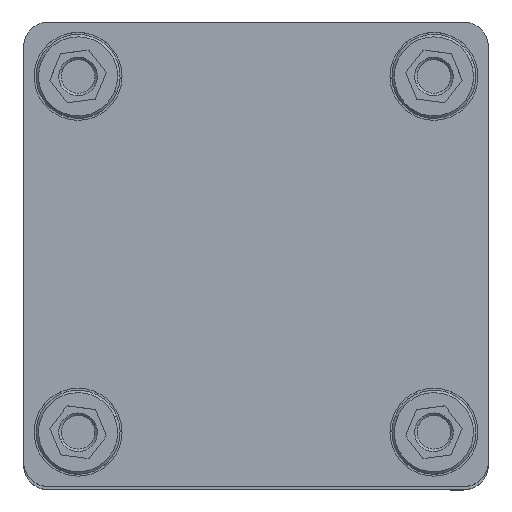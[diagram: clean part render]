
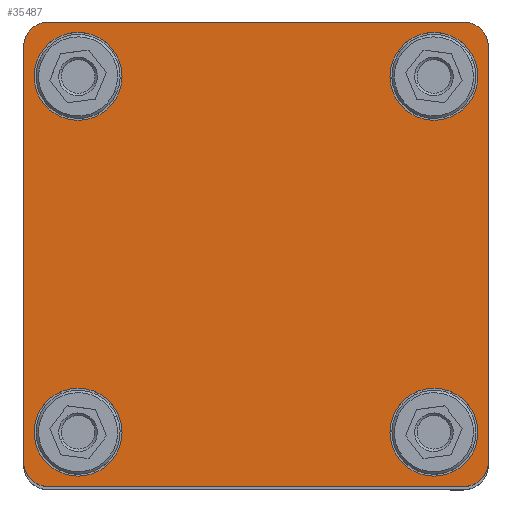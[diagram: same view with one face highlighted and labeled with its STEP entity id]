
A CAD part, top view. The second image highlights one B-rep face of the part: STEP entity #35487.
In plain terms, the highlighted planar face has unit normal (0, 0, 1) as drawn and (1, 0, 0) by its records, which use the part's own axes.
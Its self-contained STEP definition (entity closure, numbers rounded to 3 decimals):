
#7 = ORIENTED_EDGE ( 'NONE', *, *, #53672, .F. ) ;
#756 = DIRECTION ( 'NONE',  ( 1., 0., 0. ) ) ;
#843 = CIRCLE ( 'NONE', #23699, 5. ) ;
#910 = CARTESIAN_POINT ( 'NONE',  ( 0., 47., -47. ) ) ;
#1063 = VECTOR ( 'NONE', #23560, 1000. ) ;
#1460 = CARTESIAN_POINT ( 'NONE',  ( 0., -42., -42. ) ) ;
#1903 = DIRECTION ( 'NONE',  ( 0., 0., 1. ) ) ;
#2743 = VERTEX_POINT ( 'NONE', #8419 ) ;
#2876 = FACE_BOUND ( 'NONE', #14866, .T. ) ;
#2986 = DIRECTION ( 'NONE',  ( 1., 0., 0. ) ) ;
#3171 = EDGE_CURVE ( 'NONE', #50883, #8267, #843, .T. ) ;
#3392 = EDGE_CURVE ( 'NONE', #23514, #32773, #46537, .T. ) ;
#3691 = CARTESIAN_POINT ( 'NONE',  ( 0., -36., 27.1 ) ) ;
#4442 = EDGE_CURVE ( 'NONE', #22175, #18625, #40807, .T. ) ;
#4878 = ORIENTED_EDGE ( 'NONE', *, *, #46613, .F. ) ;
#5325 = DIRECTION ( 'NONE',  ( 1., 0., 0. ) ) ;
#5492 = ORIENTED_EDGE ( 'NONE', *, *, #4442, .F. ) ;
#5665 = VECTOR ( 'NONE', #16947, 1000. ) ;
#5792 = VECTOR ( 'NONE', #1903, 1000. ) ;
#5926 = EDGE_CURVE ( 'NONE', #55581, #8993, #35116, .T. ) ;
#7353 = EDGE_CURVE ( 'NONE', #2743, #56729, #38896, .T. ) ;
#7557 = DIRECTION ( 'NONE',  ( 0., 0., -1. ) ) ;
#8267 = VERTEX_POINT ( 'NONE', #57644 ) ;
#8276 = CIRCLE ( 'NONE', #46287, 8.9 ) ;
#8285 = AXIS2_PLACEMENT_3D ( 'NONE', #1460, #56899, #42588 ) ;
#8419 = CARTESIAN_POINT ( 'NONE',  ( 0., 36., -27.1 ) ) ;
#8608 = DIRECTION ( 'NONE',  ( 0., 0., -1. ) ) ;
#8993 = VERTEX_POINT ( 'NONE', #3691 ) ;
#9386 = CARTESIAN_POINT ( 'NONE',  ( 0., 47., -42. ) ) ;
#9394 = AXIS2_PLACEMENT_3D ( 'NONE', #48422, #57987, #43079 ) ;
#10185 = CIRCLE ( 'NONE', #43544, 8.9 ) ;
#10552 = ORIENTED_EDGE ( 'NONE', *, *, #3171, .T. ) ;
#11640 = DIRECTION ( 'NONE',  ( 0., 0., -1. ) ) ;
#11701 = EDGE_CURVE ( 'NONE', #32039, #47033, #49910, .T. ) ;
#11834 = ORIENTED_EDGE ( 'NONE', *, *, #51540, .T. ) ;
#11850 = CARTESIAN_POINT ( 'NONE',  ( 0., 36., 44.9 ) ) ;
#12090 = CARTESIAN_POINT ( 'NONE',  ( 0., -42., -47. ) ) ;
#13905 = DIRECTION ( 'NONE',  ( 1., 0., 0. ) ) ;
#13918 = CARTESIAN_POINT ( 'NONE',  ( 0., 36., 36. ) ) ;
#14866 = EDGE_LOOP ( 'NONE', ( #19056, #7 ) ) ;
#14943 = CIRCLE ( 'NONE', #54949, 8.9 ) ;
#15293 = VERTEX_POINT ( 'NONE', #31845 ) ;
#15312 = AXIS2_PLACEMENT_3D ( 'NONE', #48964, #5325, #44803 ) ;
#16947 = DIRECTION ( 'NONE',  ( 0., 1., 0. ) ) ;
#17261 = LINE ( 'NONE', #43488, #5665 ) ;
#18625 = VERTEX_POINT ( 'NONE', #50953 ) ;
#18846 = EDGE_CURVE ( 'NONE', #50883, #47033, #17261, .T. ) ;
#19010 = DIRECTION ( 'NONE',  ( 1., 0., 0. ) ) ;
#19056 = ORIENTED_EDGE ( 'NONE', *, *, #3392, .F. ) ;
#19460 = VERTEX_POINT ( 'NONE', #47876 ) ;
#19605 = EDGE_LOOP ( 'NONE', ( #51120, #46391 ) ) ;
#20032 = EDGE_LOOP ( 'NONE', ( #49224, #10552, #41966, #11834, #58859, #46540, #4878, #58326 ) ) ;
#21036 = DIRECTION ( 'NONE',  ( 0., 0., -1. ) ) ;
#21765 = CARTESIAN_POINT ( 'NONE',  ( 0., -36., -44.9 ) ) ;
#22175 = VERTEX_POINT ( 'NONE', #21765 ) ;
#23076 = DIRECTION ( 'NONE',  ( 1., 0., 0. ) ) ;
#23432 = EDGE_CURVE ( 'NONE', #8993, #55581, #14943, .T. ) ;
#23514 = VERTEX_POINT ( 'NONE', #51367 ) ;
#23560 = DIRECTION ( 'NONE',  ( 0., 0., -1. ) ) ;
#23699 = AXIS2_PLACEMENT_3D ( 'NONE', #51571, #28923, #11640 ) ;
#23750 = CARTESIAN_POINT ( 'NONE',  ( 0., 36., -36. ) ) ;
#24545 = CARTESIAN_POINT ( 'NONE',  ( 0., -47., -47. ) ) ;
#24640 = AXIS2_PLACEMENT_3D ( 'NONE', #47784, #56739, #7557 ) ;
#24851 = CARTESIAN_POINT ( 'NONE',  ( 0., -36., 44.9 ) ) ;
#25201 = CARTESIAN_POINT ( 'NONE',  ( 0., 47., 42. ) ) ;
#25266 = EDGE_CURVE ( 'NONE', #15293, #39659, #38150, .T. ) ;
#25541 = FACE_BOUND ( 'NONE', #40761, .T. ) ;
#26373 = CIRCLE ( 'NONE', #8285, 5. ) ;
#26599 = EDGE_CURVE ( 'NONE', #18625, #22175, #47340, .T. ) ;
#27171 = CARTESIAN_POINT ( 'NONE',  ( 0., 42., 47. ) ) ;
#27319 = VERTEX_POINT ( 'NONE', #9386 ) ;
#27553 = CARTESIAN_POINT ( 'NONE',  ( 0., -36., 36. ) ) ;
#27918 = DIRECTION ( 'NONE',  ( 0., 0., -1. ) ) ;
#28003 = AXIS2_PLACEMENT_3D ( 'NONE', #51699, #756, #51418 ) ;
#28671 = EDGE_CURVE ( 'NONE', #19460, #8267, #33460, .T. ) ;
#28923 = DIRECTION ( 'NONE',  ( 1., 0., 0. ) ) ;
#28959 = EDGE_CURVE ( 'NONE', #15293, #27319, #36269, .T. ) ;
#29582 = ORIENTED_EDGE ( 'NONE', *, *, #23432, .F. ) ;
#29704 = CARTESIAN_POINT ( 'NONE',  ( 0., 0., 0. ) ) ;
#29989 = FACE_BOUND ( 'NONE', #19605, .T. ) ;
#31845 = CARTESIAN_POINT ( 'NONE',  ( 0., 42., -47. ) ) ;
#32039 = VERTEX_POINT ( 'NONE', #25201 ) ;
#32196 = VECTOR ( 'NONE', #56024, 1000. ) ;
#32583 = ORIENTED_EDGE ( 'NONE', *, *, #26599, .F. ) ;
#32773 = VERTEX_POINT ( 'NONE', #11850 ) ;
#33178 = CARTESIAN_POINT ( 'NONE',  ( 0., -36., 36. ) ) ;
#33460 = LINE ( 'NONE', #24545, #5792 ) ;
#35116 = CIRCLE ( 'NONE', #54154, 8.9 ) ;
#35483 = CARTESIAN_POINT ( 'NONE',  ( 0., 36., -44.9 ) ) ;
#35487 = ADVANCED_FACE ( 'NONE', ( #25541, #52639, #29989, #2876, #48466 ), #44009, .T. ) ;
#36269 = CIRCLE ( 'NONE', #15312, 5. ) ;
#36492 = CARTESIAN_POINT ( 'NONE',  ( 0., -42., 47. ) ) ;
#38150 = LINE ( 'NONE', #52129, #32196 ) ;
#38896 = CIRCLE ( 'NONE', #24640, 8.9 ) ;
#38920 = CARTESIAN_POINT ( 'NONE',  ( 0., -36., -36. ) ) ;
#39362 = DIRECTION ( 'NONE',  ( 0., 0., -1. ) ) ;
#39659 = VERTEX_POINT ( 'NONE', #12090 ) ;
#40761 = EDGE_LOOP ( 'NONE', ( #5492, #32583 ) ) ;
#40807 = CIRCLE ( 'NONE', #50267, 8.9 ) ;
#41253 = DIRECTION ( 'NONE',  ( 0., 0., -1. ) ) ;
#41966 = ORIENTED_EDGE ( 'NONE', *, *, #28671, .F. ) ;
#42588 = DIRECTION ( 'NONE',  ( 0., 0., -1. ) ) ;
#43079 = DIRECTION ( 'NONE',  ( 0., 0., -1. ) ) ;
#43488 = CARTESIAN_POINT ( 'NONE',  ( 0., -47., 47. ) ) ;
#43544 = AXIS2_PLACEMENT_3D ( 'NONE', #23750, #13905, #27918 ) ;
#43581 = AXIS2_PLACEMENT_3D ( 'NONE', #29704, #48764, #56829 ) ;
#43824 = CARTESIAN_POINT ( 'NONE',  ( 0., 36., 36. ) ) ;
#44009 = PLANE ( 'NONE',  #43581 ) ;
#44803 = DIRECTION ( 'NONE',  ( 0., 0., -1. ) ) ;
#46287 = AXIS2_PLACEMENT_3D ( 'NONE', #13918, #19010, #8608 ) ;
#46391 = ORIENTED_EDGE ( 'NONE', *, *, #7353, .F. ) ;
#46424 = ORIENTED_EDGE ( 'NONE', *, *, #5926, .F. ) ;
#46537 = CIRCLE ( 'NONE', #54160, 8.9 ) ;
#46540 = ORIENTED_EDGE ( 'NONE', *, *, #28959, .T. ) ;
#46613 = EDGE_CURVE ( 'NONE', #32039, #27319, #50970, .T. ) ;
#47033 = VERTEX_POINT ( 'NONE', #27171 ) ;
#47340 = CIRCLE ( 'NONE', #9394, 8.9 ) ;
#47784 = CARTESIAN_POINT ( 'NONE',  ( 0., 36., -36. ) ) ;
#47876 = CARTESIAN_POINT ( 'NONE',  ( 0., -47., -42. ) ) ;
#48422 = CARTESIAN_POINT ( 'NONE',  ( 0., -36., -36. ) ) ;
#48466 = FACE_OUTER_BOUND ( 'NONE', #20032, .T. ) ;
#48709 = EDGE_LOOP ( 'NONE', ( #29582, #46424 ) ) ;
#48764 = DIRECTION ( 'NONE',  ( 1., 0., 0. ) ) ;
#48964 = CARTESIAN_POINT ( 'NONE',  ( 0., 42., -42. ) ) ;
#49224 = ORIENTED_EDGE ( 'NONE', *, *, #18846, .F. ) ;
#49910 = CIRCLE ( 'NONE', #28003, 5. ) ;
#50267 = AXIS2_PLACEMENT_3D ( 'NONE', #38920, #52897, #21036 ) ;
#50883 = VERTEX_POINT ( 'NONE', #36492 ) ;
#50953 = CARTESIAN_POINT ( 'NONE',  ( 0., -36., -27.1 ) ) ;
#50970 = LINE ( 'NONE', #910, #1063 ) ;
#51075 = DIRECTION ( 'NONE',  ( 1., 0., 0. ) ) ;
#51120 = ORIENTED_EDGE ( 'NONE', *, *, #56065, .F. ) ;
#51367 = CARTESIAN_POINT ( 'NONE',  ( 0., 36., 27.1 ) ) ;
#51418 = DIRECTION ( 'NONE',  ( 0., 0., -1. ) ) ;
#51540 = EDGE_CURVE ( 'NONE', #19460, #39659, #26373, .T. ) ;
#51571 = CARTESIAN_POINT ( 'NONE',  ( 0., -42., 42. ) ) ;
#51699 = CARTESIAN_POINT ( 'NONE',  ( 0., 42., 42. ) ) ;
#52129 = CARTESIAN_POINT ( 'NONE',  ( 0., -47., -47. ) ) ;
#52639 = FACE_BOUND ( 'NONE', #48709, .T. ) ;
#52897 = DIRECTION ( 'NONE',  ( 1., 0., 0. ) ) ;
#53672 = EDGE_CURVE ( 'NONE', #32773, #23514, #8276, .T. ) ;
#54154 = AXIS2_PLACEMENT_3D ( 'NONE', #33178, #51075, #55250 ) ;
#54160 = AXIS2_PLACEMENT_3D ( 'NONE', #43824, #2986, #39362 ) ;
#54949 = AXIS2_PLACEMENT_3D ( 'NONE', #27553, #23076, #41253 ) ;
#55250 = DIRECTION ( 'NONE',  ( 0., 0., -1. ) ) ;
#55581 = VERTEX_POINT ( 'NONE', #24851 ) ;
#56024 = DIRECTION ( 'NONE',  ( 0., -1., 0. ) ) ;
#56065 = EDGE_CURVE ( 'NONE', #56729, #2743, #10185, .T. ) ;
#56729 = VERTEX_POINT ( 'NONE', #35483 ) ;
#56739 = DIRECTION ( 'NONE',  ( 1., 0., 0. ) ) ;
#56829 = DIRECTION ( 'NONE',  ( 0., 0., -1. ) ) ;
#56899 = DIRECTION ( 'NONE',  ( 1., 0., 0. ) ) ;
#57644 = CARTESIAN_POINT ( 'NONE',  ( 0., -47., 42. ) ) ;
#57987 = DIRECTION ( 'NONE',  ( 1., 0., 0. ) ) ;
#58326 = ORIENTED_EDGE ( 'NONE', *, *, #11701, .T. ) ;
#58859 = ORIENTED_EDGE ( 'NONE', *, *, #25266, .F. ) ;
